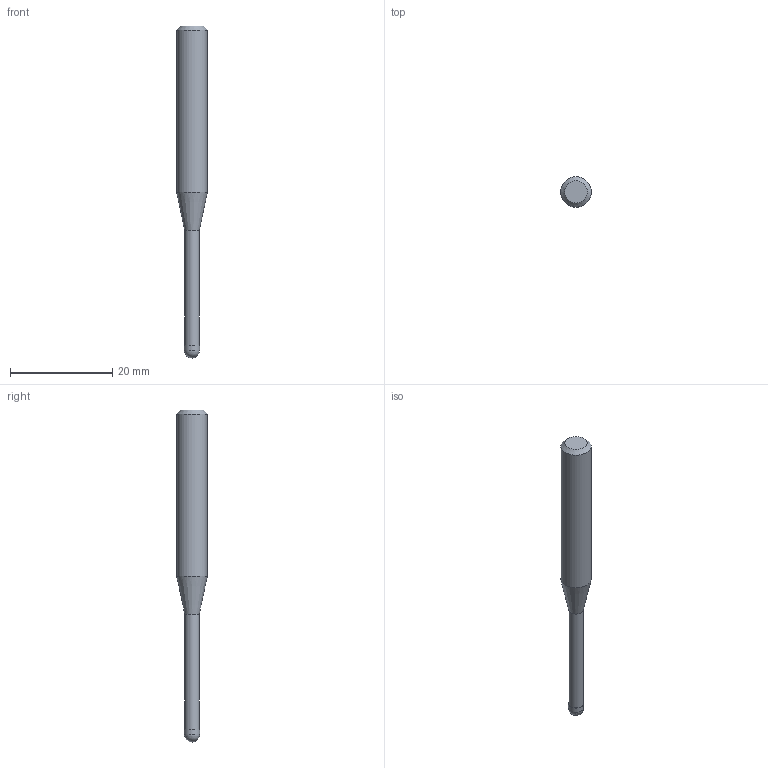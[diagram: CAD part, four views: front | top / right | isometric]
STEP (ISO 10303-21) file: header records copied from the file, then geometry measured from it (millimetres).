
FILE_DESCRIPTION((''),'2;1');
FILE_NAME('C:\Users\nsx150\AppData\Local\Temp\Mastercam 2021\3SYKECWX22\TEMP.step','2021-04-22T10:05:00',(''),(''),'STEP Write','Mastercam 2021 ... CNC Software, Inc.','');
FILE_SCHEMA(('AUTOMOTIVE_DESIGN'));
Length unit declared in the file: millimetre
Products named in the file (1): None
Bounding box: 6 x 6 x 65 mm (x, y, z)
Volume: 1192.4 mm3; surface area: 976.7 mm2
Topology: 2 solids, 2 shells, 9 faces, 14 edges, 8 vertices
Faces by surface type: plane 3, cylinder 3, cone 2, sphere 1
Full cylindrical faces by diameter (mm): 2.85 x1, 3 x1, 6 x1
Entity records: 211 total; most frequent: DIRECTION 36, CARTESIAN_POINT 25, AXIS2_PLACEMENT_3D 18, ORIENTED_EDGE 14, EDGE_LOOP 14, STYLED_ITEM 12, ADVANCED_FACE 9, FACE_BOUND 8
